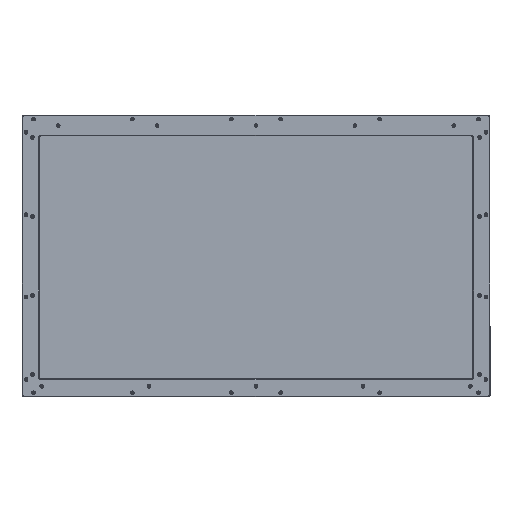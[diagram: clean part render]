
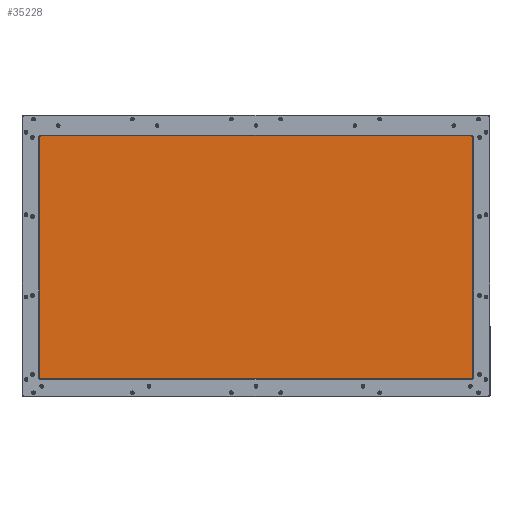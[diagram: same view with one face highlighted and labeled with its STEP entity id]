
A CAD part, top view. The second image highlights one B-rep face of the part: STEP entity #35228.
In plain terms, the highlighted planar face has unit normal (0, 0, 1).
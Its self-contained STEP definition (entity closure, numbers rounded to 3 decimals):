
#176 = VECTOR ( 'NONE', #14349, 1000. ) ;
#200 = VERTEX_POINT ( 'NONE', #9902 ) ;
#244 = VERTEX_POINT ( 'NONE', #48460 ) ;
#452 = ORIENTED_EDGE ( 'NONE', *, *, #68832, .T. ) ;
#2631 = VERTEX_POINT ( 'NONE', #76412 ) ;
#9902 = CARTESIAN_POINT ( 'NONE',  ( -263.52, 146.48, 62.4 ) ) ;
#14349 = DIRECTION ( 'NONE',  ( 1., 0., 0. ) ) ;
#17841 = DIRECTION ( 'NONE',  ( -1., 0., 0. ) ) ;
#18467 = CARTESIAN_POINT ( 'NONE',  ( 263.52, -149.98, 62.4 ) ) ;
#19791 = LINE ( 'NONE', #54357, #176 ) ;
#24177 = DIRECTION ( 'NONE',  ( 0., -1., 0. ) ) ;
#28439 = EDGE_CURVE ( 'NONE', #244, #200, #44392, .T. ) ;
#29659 = ORIENTED_EDGE ( 'NONE', *, *, #28439, .T. ) ;
#32586 = CARTESIAN_POINT ( 'NONE',  ( 0., 0., 62.4 ) ) ;
#32872 = DIRECTION ( 'NONE',  ( 0., 0., 1. ) ) ;
#33433 = PLANE ( 'NONE',  #64498 ) ;
#35228 = ADVANCED_FACE ( 'NONE', ( #64942 ), #33433, .T. ) ;
#36294 = LINE ( 'NONE', #63657, #39410 ) ;
#39210 = DIRECTION ( 'NONE',  ( 1., 0., 0. ) ) ;
#39410 = VECTOR ( 'NONE', #24177, 1000. ) ;
#40309 = VECTOR ( 'NONE', #17841, 1000. ) ;
#41135 = EDGE_LOOP ( 'NONE', ( #53817, #29659, #452, #77956 ) ) ;
#41857 = EDGE_CURVE ( 'NONE', #2631, #78205, #19791, .T. ) ;
#42036 = VECTOR ( 'NONE', #65723, 1000. ) ;
#44392 = LINE ( 'NONE', #70249, #40309 ) ;
#48460 = CARTESIAN_POINT ( 'NONE',  ( 263.52, 146.48, 62.4 ) ) ;
#53817 = ORIENTED_EDGE ( 'NONE', *, *, #77133, .T. ) ;
#54357 = CARTESIAN_POINT ( 'NONE',  ( 263.52, -149.98, 62.4 ) ) ;
#59095 = CARTESIAN_POINT ( 'NONE',  ( 263.52, -149.98, 62.4 ) ) ;
#63657 = CARTESIAN_POINT ( 'NONE',  ( -263.52, -149.98, 62.4 ) ) ;
#64498 = AXIS2_PLACEMENT_3D ( 'NONE', #32586, #32872, #39210 ) ;
#64942 = FACE_OUTER_BOUND ( 'NONE', #41135, .T. ) ;
#65723 = DIRECTION ( 'NONE',  ( 0., 1., 0. ) ) ;
#68832 = EDGE_CURVE ( 'NONE', #200, #2631, #36294, .T. ) ;
#70249 = CARTESIAN_POINT ( 'NONE',  ( 263.52, 146.48, 62.4 ) ) ;
#72034 = LINE ( 'NONE', #59095, #42036 ) ;
#76412 = CARTESIAN_POINT ( 'NONE',  ( -263.52, -149.98, 62.4 ) ) ;
#77133 = EDGE_CURVE ( 'NONE', #78205, #244, #72034, .T. ) ;
#77956 = ORIENTED_EDGE ( 'NONE', *, *, #41857, .T. ) ;
#78205 = VERTEX_POINT ( 'NONE', #18467 ) ;
